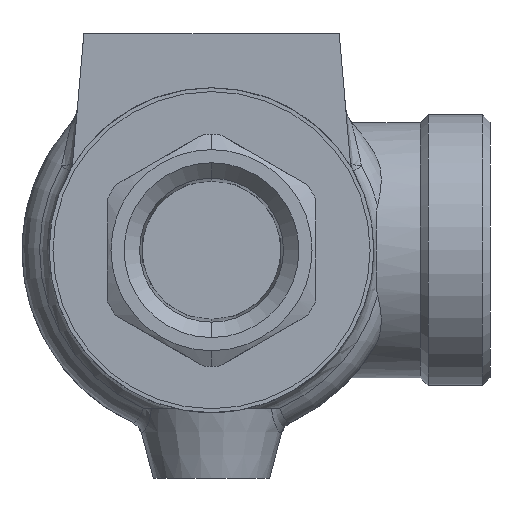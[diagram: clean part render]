
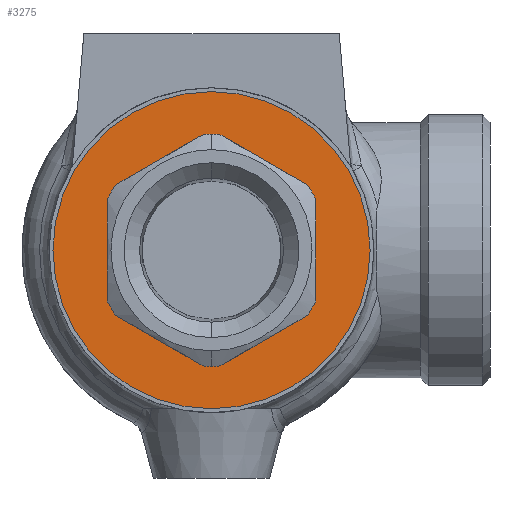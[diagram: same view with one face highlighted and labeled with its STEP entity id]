
A CAD part, front view. The second image highlights one B-rep face of the part: STEP entity #3275.
In plain terms, the highlighted planar face has unit normal (0, -1, 0).
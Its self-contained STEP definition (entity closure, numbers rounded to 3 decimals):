
#5 = DIRECTION ( 'NONE',  ( 0., 0., -1. ) ) ;
#38 = DIRECTION ( 'NONE',  ( 0., 0., -1. ) ) ;
#104 = DIRECTION ( 'NONE',  ( 0., -1., 0. ) ) ;
#114 = CARTESIAN_POINT ( 'NONE',  ( 13.5, -27., 0. ) ) ;
#125 = ORIENTED_EDGE ( 'NONE', *, *, #418, .F. ) ;
#133 = LINE ( 'NONE', #114, #3938 ) ;
#155 = CARTESIAN_POINT ( 'NONE',  ( 13.5, -27., 6.538 ) ) ;
#172 = EDGE_CURVE ( 'NONE', #2397, #415, #682, .T. ) ;
#192 = ORIENTED_EDGE ( 'NONE', *, *, #517, .F. ) ;
#200 = CARTESIAN_POINT ( 'NONE',  ( 1.088, -27., -14.961 ) ) ;
#222 = VERTEX_POINT ( 'NONE', #1542 ) ;
#229 = DIRECTION ( 'NONE',  ( 0., 1., 0. ) ) ;
#233 = VERTEX_POINT ( 'NONE', #555 ) ;
#333 = VERTEX_POINT ( 'NONE', #669 ) ;
#361 = VERTEX_POINT ( 'NONE', #2040 ) ;
#415 = VERTEX_POINT ( 'NONE', #2131 ) ;
#418 = EDGE_CURVE ( 'NONE', #436, #681, #3478, .T. ) ;
#436 = VERTEX_POINT ( 'NONE', #1199 ) ;
#441 = EDGE_CURVE ( 'NONE', #2977, #2397, #133, .T. ) ;
#484 = CARTESIAN_POINT ( 'NONE',  ( 0., -27., 0. ) ) ;
#485 = CARTESIAN_POINT ( 'NONE',  ( 0., -27., 0. ) ) ;
#509 = VERTEX_POINT ( 'NONE', #3522 ) ;
#510 = AXIS2_PLACEMENT_3D ( 'NONE', #1315, #1009, #5 ) ;
#517 = EDGE_CURVE ( 'NONE', #361, #2977, #3443, .T. ) ;
#532 = VECTOR ( 'NONE', #1356, 1000. ) ;
#555 = CARTESIAN_POINT ( 'NONE',  ( -1.088, -27., 14.961 ) ) ;
#566 = DIRECTION ( 'NONE',  ( 0., -1., 0. ) ) ;
#600 = EDGE_CURVE ( 'NONE', #415, #333, #1928, .T. ) ;
#607 = AXIS2_PLACEMENT_3D ( 'NONE', #2502, #3836, #802 ) ;
#669 = CARTESIAN_POINT ( 'NONE',  ( 1.088, -27., 14.961 ) ) ;
#681 = VERTEX_POINT ( 'NONE', #3653 ) ;
#682 = CIRCLE ( 'NONE', #3438, 15. ) ;
#683 = CARTESIAN_POINT ( 'NONE',  ( 0., -27., 0. ) ) ;
#802 = DIRECTION ( 'NONE',  ( 0., 0., -1. ) ) ;
#969 = VERTEX_POINT ( 'NONE', #2475 ) ;
#977 = DIRECTION ( 'NONE',  ( 0., 0., -1. ) ) ;
#1009 = DIRECTION ( 'NONE',  ( 0., -1., 0. ) ) ;
#1072 = CIRCLE ( 'NONE', #3828, 15. ) ;
#1113 = ORIENTED_EDGE ( 'NONE', *, *, #1451, .F. ) ;
#1118 = CARTESIAN_POINT ( 'NONE',  ( -8.625, -27., -20.568 ) ) ;
#1199 = CARTESIAN_POINT ( 'NONE',  ( -12.412, -27., -8.422 ) ) ;
#1213 = EDGE_CURVE ( 'NONE', #2003, #3920, #1072, .T. ) ;
#1228 = VECTOR ( 'NONE', #1471, 1000. ) ;
#1244 = DIRECTION ( 'NONE',  ( 0., 0., 1. ) ) ;
#1267 = EDGE_CURVE ( 'NONE', #509, #1925, #4141, .T. ) ;
#1282 = CARTESIAN_POINT ( 'NONE',  ( -8.625, -27., 20.568 ) ) ;
#1299 = AXIS2_PLACEMENT_3D ( 'NONE', #683, #2429, #38 ) ;
#1315 = CARTESIAN_POINT ( 'NONE',  ( -20.5, -27., 0. ) ) ;
#1356 = DIRECTION ( 'NONE',  ( 0.866, 0., -0.5 ) ) ;
#1382 = AXIS2_PLACEMENT_3D ( 'NONE', #3533, #229, #2182 ) ;
#1393 = CIRCLE ( 'NONE', #607, 15. ) ;
#1451 = EDGE_CURVE ( 'NONE', #3920, #222, #3235, .T. ) ;
#1471 = DIRECTION ( 'NONE',  ( 0.866, 0., 0.5 ) ) ;
#1509 = DIRECTION ( 'NONE',  ( 0., -1., 0. ) ) ;
#1542 = CARTESIAN_POINT ( 'NONE',  ( -13.5, -27., -6.538 ) ) ;
#1547 = EDGE_CURVE ( 'NONE', #222, #436, #4285, .T. ) ;
#1616 = EDGE_CURVE ( 'NONE', #333, #233, #1393, .T. ) ;
#1686 = CARTESIAN_POINT ( 'NONE',  ( 0., -27., 0. ) ) ;
#1693 = ORIENTED_EDGE ( 'NONE', *, *, #1547, .F. ) ;
#1728 = AXIS2_PLACEMENT_3D ( 'NONE', #4314, #566, #977 ) ;
#1790 = EDGE_CURVE ( 'NONE', #1925, #509, #3805, .T. ) ;
#1795 = ORIENTED_EDGE ( 'NONE', *, *, #172, .F. ) ;
#1806 = CARTESIAN_POINT ( 'NONE',  ( -22.125, -27., -2.815 ) ) ;
#1812 = CARTESIAN_POINT ( 'NONE',  ( -12.412, -27., 8.422 ) ) ;
#1821 = ORIENTED_EDGE ( 'NONE', *, *, #1790, .F. ) ;
#1832 = DIRECTION ( 'NONE',  ( 0., 0., -1. ) ) ;
#1925 = VERTEX_POINT ( 'NONE', #3445 ) ;
#1928 = LINE ( 'NONE', #1282, #2662 ) ;
#1986 = EDGE_LOOP ( 'NONE', ( #2181, #2602, #1795, #3635, #192, #2956, #3670, #2283, #125, #1693, #1113, #2184, #3035 ) ) ;
#2003 = VERTEX_POINT ( 'NONE', #1812 ) ;
#2031 = EDGE_LOOP ( 'NONE', ( #1821, #2585 ) ) ;
#2040 = CARTESIAN_POINT ( 'NONE',  ( 12.412, -27., -8.422 ) ) ;
#2131 = CARTESIAN_POINT ( 'NONE',  ( 12.412, -27., 8.422 ) ) ;
#2181 = ORIENTED_EDGE ( 'NONE', *, *, #1616, .F. ) ;
#2182 = DIRECTION ( 'NONE',  ( 0., 0., 1. ) ) ;
#2184 = ORIENTED_EDGE ( 'NONE', *, *, #1213, .F. ) ;
#2221 = DIRECTION ( 'NONE',  ( -0.866, 0., -0.5 ) ) ;
#2231 = AXIS2_PLACEMENT_3D ( 'NONE', #485, #3542, #2880 ) ;
#2283 = ORIENTED_EDGE ( 'NONE', *, *, #2982, .F. ) ;
#2311 = LINE ( 'NONE', #3909, #3865 ) ;
#2394 = VERTEX_POINT ( 'NONE', #200 ) ;
#2397 = VERTEX_POINT ( 'NONE', #155 ) ;
#2429 = DIRECTION ( 'NONE',  ( 0., -1., 0. ) ) ;
#2457 = AXIS2_PLACEMENT_3D ( 'NONE', #4032, #2633, #1244 ) ;
#2470 = DIRECTION ( 'NONE',  ( 0., 0., -1. ) ) ;
#2475 = CARTESIAN_POINT ( 'NONE',  ( 0., -27., -15. ) ) ;
#2502 = CARTESIAN_POINT ( 'NONE',  ( 0., -27., 0. ) ) ;
#2585 = ORIENTED_EDGE ( 'NONE', *, *, #1267, .F. ) ;
#2602 = ORIENTED_EDGE ( 'NONE', *, *, #600, .F. ) ;
#2633 = DIRECTION ( 'NONE',  ( 0., 1., 0. ) ) ;
#2644 = FACE_OUTER_BOUND ( 'NONE', #2031, .T. ) ;
#2662 = VECTOR ( 'NONE', #4012, 1000. ) ;
#2855 = DIRECTION ( 'NONE',  ( 0., 0., -1. ) ) ;
#2860 = CARTESIAN_POINT ( 'NONE',  ( -13.5, -27., 0. ) ) ;
#2880 = DIRECTION ( 'NONE',  ( 0., 0., -1. ) ) ;
#2956 = ORIENTED_EDGE ( 'NONE', *, *, #3723, .F. ) ;
#2959 = CARTESIAN_POINT ( 'NONE',  ( 13.5, -27., -6.538 ) ) ;
#2977 = VERTEX_POINT ( 'NONE', #2959 ) ;
#2982 = EDGE_CURVE ( 'NONE', #681, #969, #4129, .T. ) ;
#3019 = EDGE_CURVE ( 'NONE', #969, #2394, #4193, .T. ) ;
#3028 = DIRECTION ( 'NONE',  ( 0., -1., 0. ) ) ;
#3035 = ORIENTED_EDGE ( 'NONE', *, *, #4297, .F. ) ;
#3137 = CARTESIAN_POINT ( 'NONE',  ( 0., -27., 0. ) ) ;
#3235 = LINE ( 'NONE', #2860, #3289 ) ;
#3275 = ADVANCED_FACE ( 'NONE', ( #3370, #2644 ), #4019, .T. ) ;
#3289 = VECTOR ( 'NONE', #1832, 1000. ) ;
#3370 = FACE_BOUND ( 'NONE', #1986, .T. ) ;
#3380 = DIRECTION ( 'NONE',  ( 0., 0., -1. ) ) ;
#3438 = AXIS2_PLACEMENT_3D ( 'NONE', #1686, #3028, #3380 ) ;
#3443 = CIRCLE ( 'NONE', #4215, 15. ) ;
#3445 = CARTESIAN_POINT ( 'NONE',  ( 0., -27., 20.5 ) ) ;
#3478 = LINE ( 'NONE', #1806, #532 ) ;
#3497 = LINE ( 'NONE', #1118, #1228 ) ;
#3522 = CARTESIAN_POINT ( 'NONE',  ( 0., -27., -20.5 ) ) ;
#3533 = CARTESIAN_POINT ( 'NONE',  ( 0., -27., 0. ) ) ;
#3542 = DIRECTION ( 'NONE',  ( 0., -1., 0. ) ) ;
#3635 = ORIENTED_EDGE ( 'NONE', *, *, #441, .F. ) ;
#3653 = CARTESIAN_POINT ( 'NONE',  ( -1.088, -27., -14.961 ) ) ;
#3670 = ORIENTED_EDGE ( 'NONE', *, *, #3019, .F. ) ;
#3723 = EDGE_CURVE ( 'NONE', #2394, #361, #3497, .T. ) ;
#3777 = CARTESIAN_POINT ( 'NONE',  ( -13.5, -27., 6.538 ) ) ;
#3805 = CIRCLE ( 'NONE', #2457, 20.5 ) ;
#3828 = AXIS2_PLACEMENT_3D ( 'NONE', #3137, #104, #2470 ) ;
#3836 = DIRECTION ( 'NONE',  ( 0., -1., 0. ) ) ;
#3865 = VECTOR ( 'NONE', #2221, 1000. ) ;
#3909 = CARTESIAN_POINT ( 'NONE',  ( -22.125, -27., 2.815 ) ) ;
#3920 = VERTEX_POINT ( 'NONE', #3777 ) ;
#3938 = VECTOR ( 'NONE', #4165, 1000. ) ;
#4012 = DIRECTION ( 'NONE',  ( -0.866, 0., 0.5 ) ) ;
#4019 = PLANE ( 'NONE',  #510 ) ;
#4032 = CARTESIAN_POINT ( 'NONE',  ( 0., -27., 0. ) ) ;
#4129 = CIRCLE ( 'NONE', #1728, 15. ) ;
#4141 = CIRCLE ( 'NONE', #1382, 20.5 ) ;
#4165 = DIRECTION ( 'NONE',  ( 0., 0., 1. ) ) ;
#4193 = CIRCLE ( 'NONE', #1299, 15. ) ;
#4215 = AXIS2_PLACEMENT_3D ( 'NONE', #484, #1509, #2855 ) ;
#4285 = CIRCLE ( 'NONE', #2231, 15. ) ;
#4297 = EDGE_CURVE ( 'NONE', #233, #2003, #2311, .T. ) ;
#4314 = CARTESIAN_POINT ( 'NONE',  ( 0., -27., 0. ) ) ;
